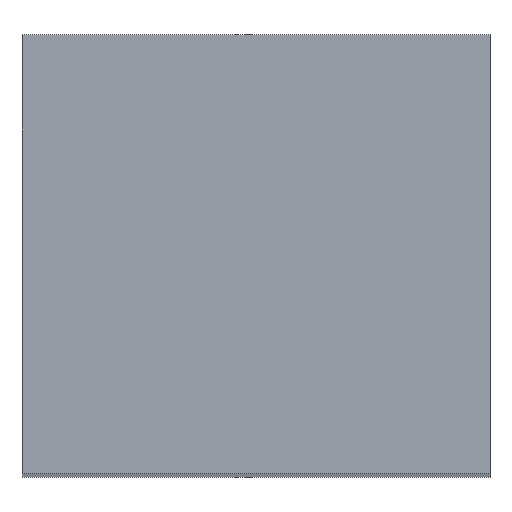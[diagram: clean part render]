
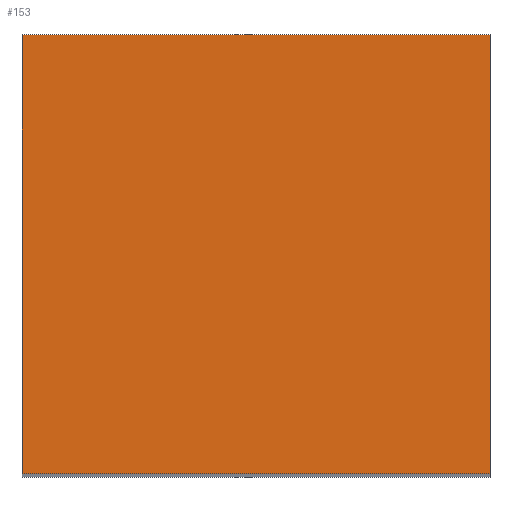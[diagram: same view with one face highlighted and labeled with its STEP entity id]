
A CAD part, top view. The second image highlights one B-rep face of the part: STEP entity #153.
In plain terms, the highlighted planar face has unit normal (0, 0, 1).
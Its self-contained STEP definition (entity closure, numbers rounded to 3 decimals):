
#24 = VERTEX_POINT('',#25);
#25 = CARTESIAN_POINT('',(-8.,-47.5,0.));
#40 = VERTEX_POINT('',#41);
#41 = CARTESIAN_POINT('',(-8.,-32.5,0.));
#47 = EDGE_CURVE('',#24,#40,#48,.T.);
#48 = LINE('',#49,#50);
#49 = CARTESIAN_POINT('',(-8.,-47.5,0.));
#50 = VECTOR('',#51,1.);
#51 = DIRECTION('',(0.,1.,0.));
#64 = VERTEX_POINT('',#65);
#65 = CARTESIAN_POINT('',(8.,-47.5,0.));
#80 = VERTEX_POINT('',#81);
#81 = CARTESIAN_POINT('',(8.,-32.5,0.));
#87 = EDGE_CURVE('',#64,#80,#88,.T.);
#88 = LINE('',#89,#90);
#89 = CARTESIAN_POINT('',(8.,-47.5,0.));
#90 = VECTOR('',#91,1.);
#91 = DIRECTION('',(0.,1.,0.));
#108 = EDGE_CURVE('',#24,#64,#109,.T.);
#109 = LINE('',#110,#111);
#110 = CARTESIAN_POINT('',(-8.,-47.5,0.));
#111 = VECTOR('',#112,1.);
#112 = DIRECTION('',(1.,0.,0.));
#130 = EDGE_CURVE('',#40,#80,#131,.T.);
#131 = LINE('',#132,#133);
#132 = CARTESIAN_POINT('',(-8.,-32.5,0.));
#133 = VECTOR('',#134,1.);
#134 = DIRECTION('',(1.,0.,0.));
#153 = ADVANCED_FACE('',(#154),#160,.T.);
#154 = FACE_BOUND('',#155,.T.);
#155 = EDGE_LOOP('',(#156,#157,#158,#159));
#156 = ORIENTED_EDGE('',*,*,#47,.F.);
#157 = ORIENTED_EDGE('',*,*,#108,.T.);
#158 = ORIENTED_EDGE('',*,*,#87,.T.);
#159 = ORIENTED_EDGE('',*,*,#130,.F.);
#160 = PLANE('',#161);
#161 = AXIS2_PLACEMENT_3D('',#162,#163,#164);
#162 = CARTESIAN_POINT('',(-8.,-47.5,0.));
#163 = DIRECTION('',(0.,0.,1.));
#164 = DIRECTION('',(1.,0.,0.));
